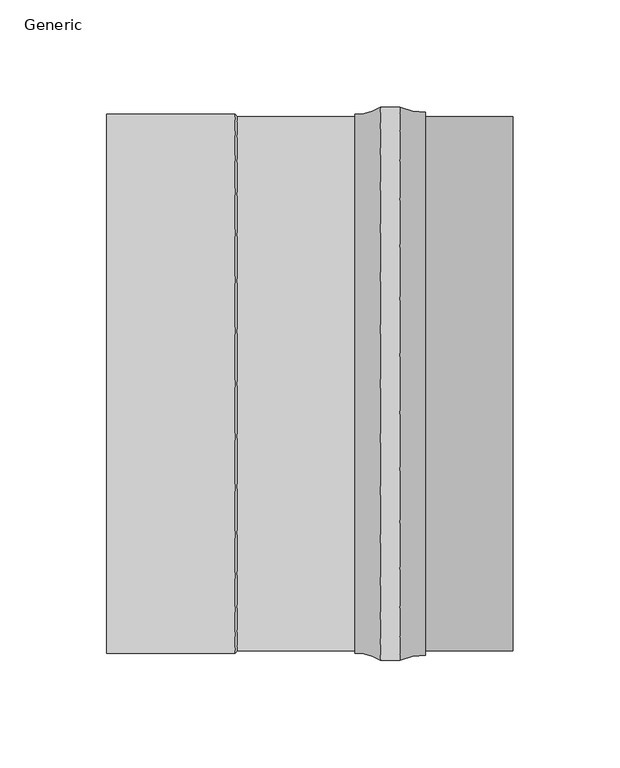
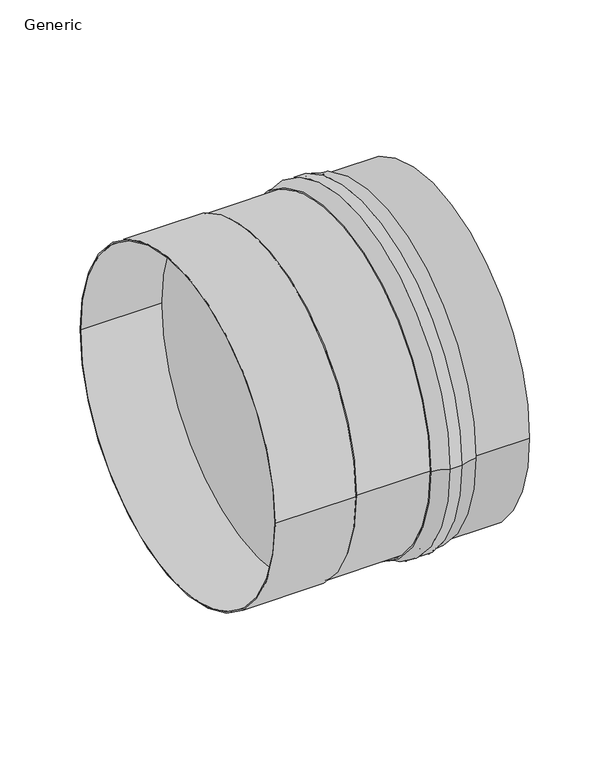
"""IFC4 building model written with IfcOpenShell, lengths in millimetres: pipe fitting geometry, CADS_Jeremias_Length_Socket : Generic."""

from ifc_helpers import new_model, si_unit, point, frame, origin, origin_2d, place, context, project, spatial, polyline, circle_curve, ellipse_curve, trimmed, segment, composite_curve, outline, extrude, source, transform, mapped, element, save
from ifc_brep_helpers import plane_surface, cylinder_surface, revolved_surface, advanced_brep


def generic_094d80ac(model_context):
    return source(origin(), model_context, "Body", "SolidModel", [
        advanced_brep(
        [(209.0, 125.0, 0.0), (209.0, 126.9765092, 0.0), (209.0, -126.9765092, 0.0), (209.0, -125.0, 0.0), (176.0, 125.0, 0.0), (176.0, -125.0, 0.0), (176.0, 125.9881891, 0.0), (176.0, -125.9881891, 0.0), (188.0, 129.4883201, 0.0), (188.0, -129.4883201, 0.0), (197.0, 129.4883201, 0.0), (197.0, -129.4883201, 0.0)],
        [
            (0, 1),
            (1, 2, circle_curve(frame((209.0, 0.0, 0.0), z_axis=(1.0, 0.0, 0.0), x_axis=(0.0, -1.0, 0.0)), 126.9765092)),
            (2, 3),
            (3, 0, circle_curve(frame((209.0, 0.0, 0.0), z_axis=(-1.0, 0.0, 0.0), x_axis=(0.0, -1.0, 0.0)), 125.0)),
            (2, 1, circle_curve(frame((209.0, 0.0, 0.0), z_axis=(1.0, 0.0, 0.0), x_axis=(0.0, -1.0, 0.0)), 126.9765092)),
            (0, 3, circle_curve(frame((209.0, 0.0, 0.0), z_axis=(-1.0, 0.0, 0.0), x_axis=(0.0, -1.0, 0.0)), 125.0)),
            (4, 0),
            (3, 5),
            (5, 4, circle_curve(frame((176.0, 0.0, 0.0), z_axis=(-1.0, 0.0, 0.0), x_axis=(0.0, -1.0, 0.0)), 125.0)),
            (4, 5, circle_curve(frame((176.0, 0.0, 0.0), z_axis=(-1.0, 0.0, 0.0), x_axis=(0.0, -1.0, 0.0)), 125.0)),
            (6, 4),
            (5, 7),
            (7, 6, circle_curve(frame((176.0, 0.0, 0.0), z_axis=(-1.0, 0.0, 0.0), x_axis=(0.0, -1.0, 0.0)), 125.9881891)),
            (6, 7, circle_curve(frame((176.0, 0.0, 0.0), z_axis=(-1.0, 0.0, 0.0), x_axis=(0.0, -1.0, 0.0)), 125.9881891)),
            (8, 6, circle_curve(frame((176.0, 148.3089134, 0.0), z_axis=(0.0, 0.0, -1.0), x_axis=(-1.0, 0.0, 0.0)), 22.3207242)),
            (7, 9, circle_curve(frame((176.0, -148.3089134, 0.0), z_axis=(0.0, 0.0, -1.0), x_axis=(-1.0, 0.0, 0.0)), 22.3207242)),
            (9, 8, circle_curve(frame((188.0, 0.0, 0.0), z_axis=(-1.0, 0.0, 0.0), x_axis=(0.0, -1.0, 0.0)), 129.4883201)),
            (8, 9, circle_curve(frame((188.0, 0.0, 0.0), z_axis=(-1.0, 0.0, 0.0), x_axis=(0.0, -1.0, 0.0)), 129.4883201)),
            (10, 8),
            (9, 11),
            (11, 10, circle_curve(frame((197.0, 0.0, 0.0), z_axis=(-1.0, 0.0, 0.0), x_axis=(0.0, -1.0, 0.0)), 129.4883201)),
            (10, 11, circle_curve(frame((197.0, 0.0, 0.0), z_axis=(-1.0, 0.0, 0.0), x_axis=(0.0, -1.0, 0.0)), 129.4883201)),
            (1, 10, circle_curve(frame((209.0, 156.8969932, 0.0), z_axis=(0.0, 0.0, -1.0), x_axis=(-1.0, 0.0, 0.0)), 29.920484)),
            (11, 2, circle_curve(frame((209.0, -156.8969932, 0.0), z_axis=(0.0, 0.0, -1.0), x_axis=(-1.0, 0.0, 0.0)), 29.920484)),
        ],
        [
            plane_surface(frame((209.0, 0.0, 0.0), z_axis=(1.0, 0.0, 0.0), x_axis=(0.0, -1.0, 0.0))),
            revolved_surface(polyline([(209.0, -125.0, 0.0), (176.0, -125.0, 0.0)]), (-1747.5, 0.0, 0.0), (1.0, 0.0, 0.0)),
            plane_surface(frame((176.0, 0.0, 0.0), z_axis=(-1.0, 0.0, 0.0), x_axis=(0.0, -1.0, 0.0))),
            revolved_surface(trimmed(ellipse_curve(frame((176.0, -148.3089134, 0.0), z_axis=(0.0, 0.0, -1.0), x_axis=(-1.0, 0.0, 0.0)), 22.3207242, 22.3207242), [point((176.0, -125.9881891, 0.0))], [point((188.0, -129.4883201, 0.0))], True, "CARTESIAN"), (-1747.5, 0.0, 0.0), (1.0, 0.0, 0.0)),
            cylinder_surface(frame((-1747.5, 0.0, 0.0), z_axis=(1.0, 0.0, 0.0), x_axis=(0.0, -1.0, 0.0)), 129.4883201),
            revolved_surface(trimmed(ellipse_curve(frame((209.0, -156.8969932, 0.0), z_axis=(0.0, 0.0, -1.0), x_axis=(-1.0, 0.0, 0.0)), 29.920484, 29.920484), [point((197.0, -129.4883201, 0.0))], [point((209.0, -126.9765092, 0.0))], True, "CARTESIAN"), (-1747.5, 0.0, 0.0), (1.0, 0.0, 0.0)),
        ],
        [
            (0, [[1, 2, 3, 4]]),
            (0, [[-3, 5, -1, 6]]),
            (1, [[7, -4, 8, 9]]),
            (1, [[-8, -6, -7, 10]]),
            (2, [[11, -9, 12, 13]]),
            (2, [[-12, -10, -11, 14]]),
            (3, [[15, -13, 16, 17]]),
            (3, [[-16, -14, -15, 18]]),
            (4, [[19, -17, 20, 21]]),
            (4, [[-20, -18, -19, 22]]),
            (5, [[23, -21, 24, -2]]),
            (5, [[-24, -22, -23, -5]]),
        ],
    ),
        advanced_brep(
        [(60.0, 125.0, 0.0), (60.0, -125.0, 0.0), (121.0, -125.0, 0.0), (121.0, 125.0, 0.0), (120.0, -126.0, 0.0), (120.0, 126.0, 0.0), (60.0, -126.0, 0.0), (60.0, 126.0, 0.0)],
        [
            (0, 1, circle_curve(frame((60.0, 0.0, 0.0), z_axis=(-1.0, 0.0, 0.0), x_axis=(0.0, -1.0, 0.0)), 125.0)),
            (1, 2),
            (2, 3, circle_curve(frame((121.0, 0.0, 0.0), z_axis=(1.0, 0.0, 0.0), x_axis=(0.0, -1.0, 0.0)), 125.0)),
            (3, 0),
            (2, 4),
            (4, 5, circle_curve(frame((120.0, 0.0, 0.0), z_axis=(1.0, 0.0, 0.0), x_axis=(0.0, -1.0, 0.0)), 126.0)),
            (5, 3),
            (4, 6),
            (6, 7, circle_curve(frame((60.0, 0.0, 0.0), z_axis=(1.0, 0.0, 0.0), x_axis=(0.0, -1.0, 0.0)), 126.0)),
            (7, 5),
            (1, 0, circle_curve(frame((60.0, 0.0, 0.0), z_axis=(-1.0, 0.0, 0.0), x_axis=(0.0, 1.0, 0.0)), 125.0)),
            (3, 2, circle_curve(frame((121.0, 0.0, 0.0), z_axis=(1.0, 0.0, 0.0), x_axis=(0.0, 1.0, 0.0)), 125.0)),
            (5, 4, circle_curve(frame((120.0, 0.0, 0.0), z_axis=(1.0, 0.0, 0.0), x_axis=(0.0, 1.0, 0.0)), 126.0)),
            (7, 6, circle_curve(frame((60.0, 0.0, 0.0), z_axis=(1.0, 0.0, 0.0), x_axis=(0.0, 1.0, 0.0)), 126.0)),
        ],
        [
            revolved_surface(polyline([(121.0, -125.0, 0.0), (60.0, -125.0, 0.0)]), (60.0, 0.0, 0.0), (1.0, 0.0, 0.0)),
            revolved_surface(polyline([(120.0, -126.0, 0.0), (121.0, -125.0, 0.0)]), (60.0, 0.0, 0.0), (1.0, 0.0, 0.0)),
            cylinder_surface(frame((60.0, 0.0, 0.0), z_axis=(1.0, 0.0, 0.0), x_axis=(0.0, -1.0, 0.0)), 126.0),
            revolved_surface(polyline([(121.0, 125.0, 0.0), (60.0, 125.0, 0.0)]), (60.0, 0.0, 0.0), (1.0, 0.0, 0.0)),
            revolved_surface(polyline([(120.0, 126.0, 0.0), (121.0, 125.0, 0.0)]), (60.0, 0.0, 0.0), (1.0, 0.0, 0.0)),
            cylinder_surface(frame((60.0, 0.0, 0.0), z_axis=(1.0, 0.0, 0.0), x_axis=(0.0, 1.0, 0.0)), 126.0),
            plane_surface(frame((60.0, 0.0, 0.0), z_axis=(-1.0, 0.0, 0.0), x_axis=(0.0, 1.0, 0.0))),
        ],
        [
            (0, [[1, 2, 3, 4]]),
            (1, [[-3, 5, 6, 7]]),
            (2, [[-6, 8, 9, 10]]),
            (3, [[11, -4, 12, -2]]),
            (4, [[-12, -7, 13, -5]]),
            (5, [[-13, -10, 14, -8]]),
            (6, [[-14, -9], [-11, -1]]),
        ],
    ),
        extrude(outline(composite_curve([segment(trimmed(circle_curve(origin_2d(), 125.0), [point((-125.0, 0.0))], [point((125.0, 0.0))], False, "CARTESIAN"), True, "CONTINUOUS"), segment(trimmed(circle_curve(origin_2d(), 125.0), [point((125.0, 0.0))], [point((-125.0, 0.0))], False, "CARTESIAN"), True, "CONTINUOUS")], self_intersect=False)), frame((190.0, 0.0, 0.0), z_axis=(1.0, 0.0, 0.0), x_axis=(0.0, 1.0, 0.0)), (0.0, 0.0, 1.0), 60.0),
        extrude(outline(composite_curve([segment(trimmed(circle_curve(origin_2d(), 125.0), [point((125.0, 0.0))], [point((-125.0, 0.0))], False, "CARTESIAN"), True, "CONTINUOUS"), segment(trimmed(circle_curve(origin_2d(), 125.0), [point((-125.0, 0.0))], [point((125.0, 0.0))], False, "CARTESIAN"), True, "CONTINUOUS")], self_intersect=False)), frame((120.0, 0.0, 0.0), z_axis=(1.0, 0.0, 0.0), x_axis=(0.0, 1.0, 0.0)), (0.0, 0.0, 1.0), 70.0),
    ])


if __name__ == "__main__":
    model = new_model("IFC4")
    model_context = context("Model", 3, world=origin())
    ifc_project = project(units=[si_unit("LENGTHUNIT", "METRE", prefix="MILLI")], contexts=[model_context])
    site = spatial("IfcSite", under=ifc_project)
    building = spatial("IfcBuilding", under=site)
    placement = place(None, origin())
    generic_shape = generic_094d80ac(model_context)
    element("IfcPipeFitting", 1, ObjectType="CADS_Jeremias_Length_Socket : Generic", at=placement, inside=building, context=model_context, shape_type="MappedRepresentation", body=[
        mapped(generic_shape, transform((0.0, 0.0, 0.0), x_axis=(1.0, 0.0, 0.0), y_axis=(0.0, 1.0, 0.0), z_axis=(0.0, 0.0, 1.0))),
    ])
    save(model, "model.ifc")
